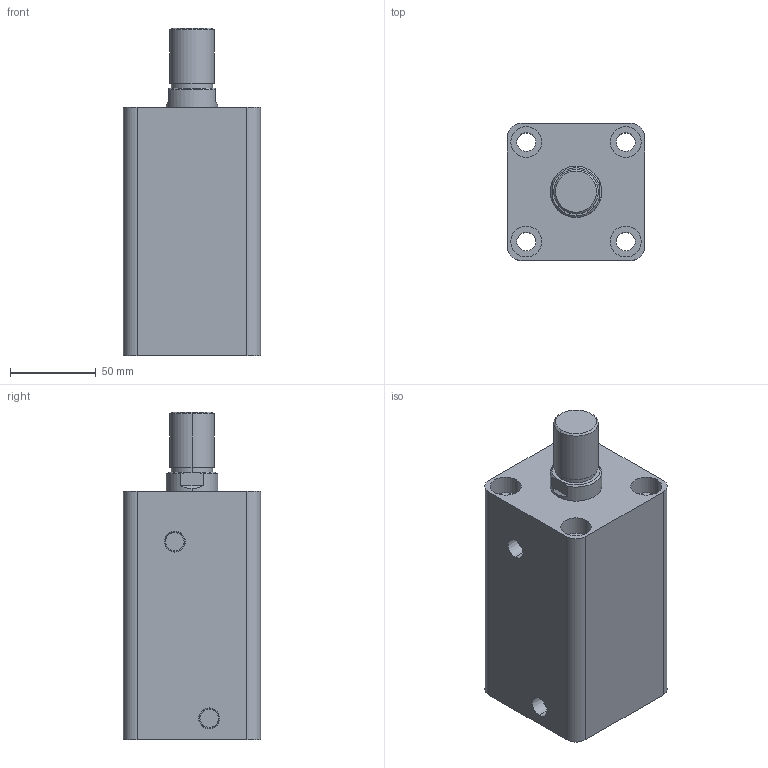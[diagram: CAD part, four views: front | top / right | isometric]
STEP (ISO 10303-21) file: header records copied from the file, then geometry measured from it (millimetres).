
FILE_DESCRIPTION (( 'STEP AP203' ), '1' );
FILE_NAME ('HTB-SD50-85W.STEP', '2019-10-07T07:19:49', ( '微软用户' ), ( '微软中国' ), 'SwSTEP 2.0', 'SolidWorks 2012', '' );
FILE_SCHEMA (( 'CONFIG_CONTROL_DESIGN' ));
Length unit declared in the file: millimetre
Products named in the file (3): HTB-SD50-85W; HTB-SD50-85W活塞杆; HTB-SD50-85掛极
Assembly tree (2 placements, depth 2):
  HTB-SD50-85W
    HTB-SD50-85掛极
    HTB-SD50-85W活塞杆
Bounding box: 80 x 80 x 191 mm (x, y, z)
Volume: 767474.9 mm3; surface area: 122658.2 mm2
Topology: 2 solids, 2 shells, 87 faces, 190 edges, 124 vertices
Faces by surface type: cylinder 44, plane 29, cone 8, torus 6
Entity records: 2761 total; most frequent: DIRECTION 478, CARTESIAN_POINT 434, ORIENTED_EDGE 380, AXIS2_PLACEMENT_3D 204, EDGE_CURVE 190, VERTEX_POINT 124, EDGE_LOOP 112, CIRCLE 112
